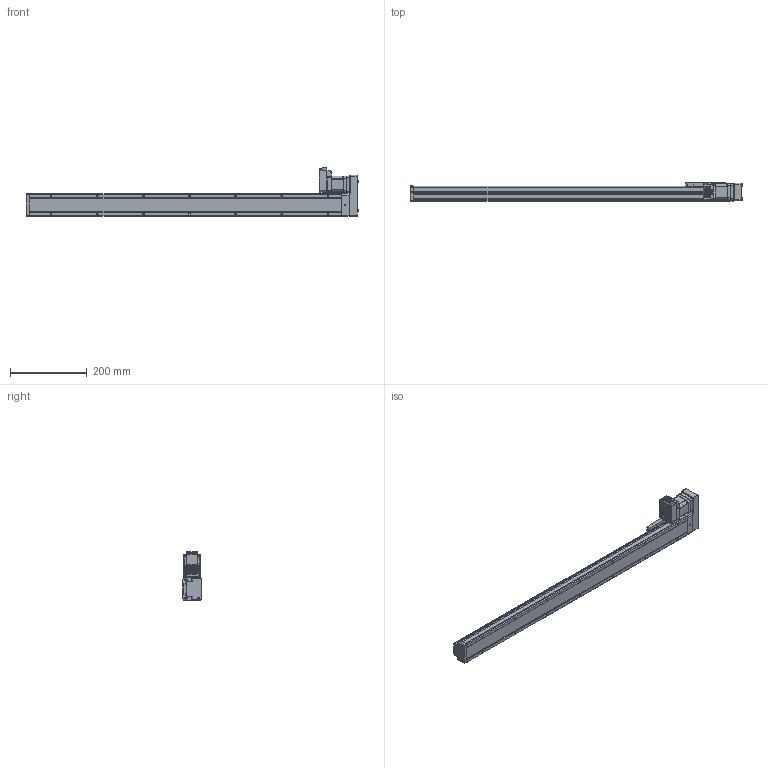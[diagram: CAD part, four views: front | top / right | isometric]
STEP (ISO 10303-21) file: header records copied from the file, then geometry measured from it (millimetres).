
FILE_DESCRIPTION (( 'STEP AP214' ), '1' );
FILE_NAME ('LEFS3(+)-25LNM1□-700-17L.STEP', '2023-05-31T04:58:32', ( '' ), ( '' ), 'SwSTEP 2.0', 'SolidWorks 2019', '' );
FILE_SCHEMA (( 'AUTOMOTIVE_DESIGN' ));
Length unit declared in the file: millimetre
Products named in the file (5): LEFS3(+)-25NM1_TABLE; LEFS3(+)-25R(L)NM1仩_MOTOR Flange; LEFS3(+)-25R(L)NM1仩_BODY_700; CM3(+)-17L50A; LEFS3(+)-25LNM1□-700-17L
Assembly tree (4 placements, depth 2):
  LEFS3(+)-25LNM1□-700-17L
    LEFS3(+)-25R(L)NM1仩_BODY_700
    LEFS3(+)-25NM1_TABLE
    LEFS3(+)-25R(L)NM1仩_MOTOR Flange
    CM3(+)-17L50A
Bounding box: 862.9 x 48 x 125.85 mm (x, y, z)
Volume: 1856036.6 mm3; surface area: 233182.9 mm2
Topology: 5 solids, 5 shells, 1031 faces, 2656 edges, 1676 vertices
Faces by surface type: plane 529, cylinder 330, cone 83, torus 39, bspline 29, sphere 21
Entity records: 42105 total; most frequent: CARTESIAN_POINT 7554, ORIENTED_EDGE 5250, DIRECTION 5084, EDGE_CURVE 2625, AXIS2_PLACEMENT_3D 1718, VERTEX_POINT 1676, VECTOR 1648, LINE 1648
